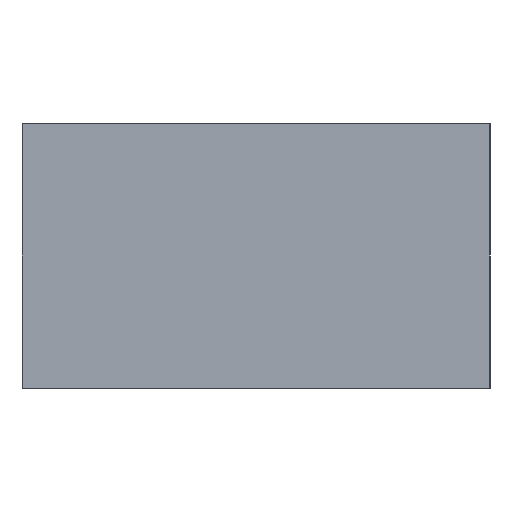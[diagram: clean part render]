
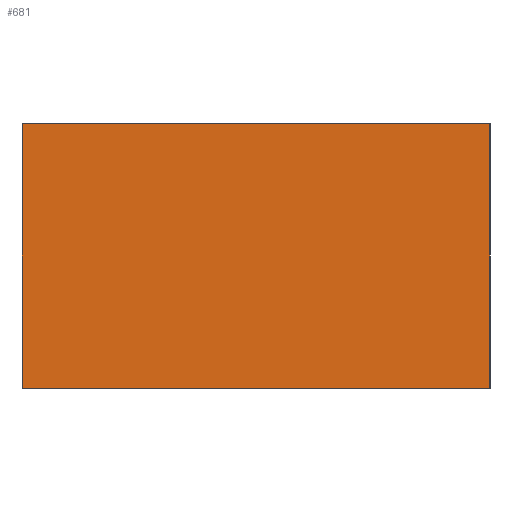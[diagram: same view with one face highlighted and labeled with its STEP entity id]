
A CAD part, left-side view. The second image highlights one B-rep face of the part: STEP entity #681.
In plain terms, the highlighted planar face has unit normal (-1, 0, 0).
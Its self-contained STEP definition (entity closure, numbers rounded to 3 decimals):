
#589=CARTESIAN_POINT('Vertex',(-110.,-17.15,9.)) ;
#605=CARTESIAN_POINT('Vertex',(-110.,14.75,9.)) ;
#608=CARTESIAN_POINT('Line Origine',(-110.,-1.2,9.)) ;
#651=CARTESIAN_POINT('Axis2P3D Location',(-110.,14.75,9.)) ;
#656=CARTESIAN_POINT('Line Origine',(-110.,14.75,0.)) ;
#660=CARTESIAN_POINT('Vertex',(-110.,14.75,-9.)) ;
#663=CARTESIAN_POINT('Line Origine',(-110.,-1.2,-9.)) ;
#667=CARTESIAN_POINT('Vertex',(-110.,-17.15,-9.)) ;
#670=CARTESIAN_POINT('Line Origine',(-110.,-17.15,0.)) ;
#609=DIRECTION('Vector Direction',(0.,-1.,0.)) ;
#652=DIRECTION('Axis2P3D Direction',(1.,0.,-0.)) ;
#653=DIRECTION('Axis2P3D XDirection',(0.,1.,0.)) ;
#657=DIRECTION('Vector Direction',(0.,0.,-1.)) ;
#664=DIRECTION('Vector Direction',(0.,-1.,0.)) ;
#671=DIRECTION('Vector Direction',(0.,0.,-1.)) ;
#654=AXIS2_PLACEMENT_3D('Plane Axis2P3D',#651,#652,#653) ;
#676=ORIENTED_EDGE('',*,*,#612,.F.) ;
#677=ORIENTED_EDGE('',*,*,#662,.T.) ;
#678=ORIENTED_EDGE('',*,*,#669,.T.) ;
#679=ORIENTED_EDGE('',*,*,#674,.F.) ;
#610=VECTOR('Line Direction',#609,1.) ;
#658=VECTOR('Line Direction',#657,1.) ;
#665=VECTOR('Line Direction',#664,1.) ;
#672=VECTOR('Line Direction',#671,1.) ;
#681=ADVANCED_FACE('\X2\62535B545C3A5BF8\X0\(%\X2\6839636E\X0\)\X2\5185516D89D2570667F1593487BA948976847C7B578B\X0\1',(#680),#655,.F.) ;
#612=EDGE_CURVE('',#606,#590,#611,.T.) ;
#662=EDGE_CURVE('',#606,#661,#659,.T.) ;
#669=EDGE_CURVE('',#661,#668,#666,.T.) ;
#674=EDGE_CURVE('',#590,#668,#673,.T.) ;
#675=EDGE_LOOP('',(#676,#677,#678,#679)) ;
#680=FACE_OUTER_BOUND('',#675,.T.) ;
#611=LINE('Line',#608,#610) ;
#659=LINE('Line',#656,#658) ;
#666=LINE('Line',#663,#665) ;
#673=LINE('Line',#670,#672) ;
#655=PLANE('Plane',#654) ;
#590=VERTEX_POINT('',#589) ;
#606=VERTEX_POINT('',#605) ;
#661=VERTEX_POINT('',#660) ;
#668=VERTEX_POINT('',#667) ;
